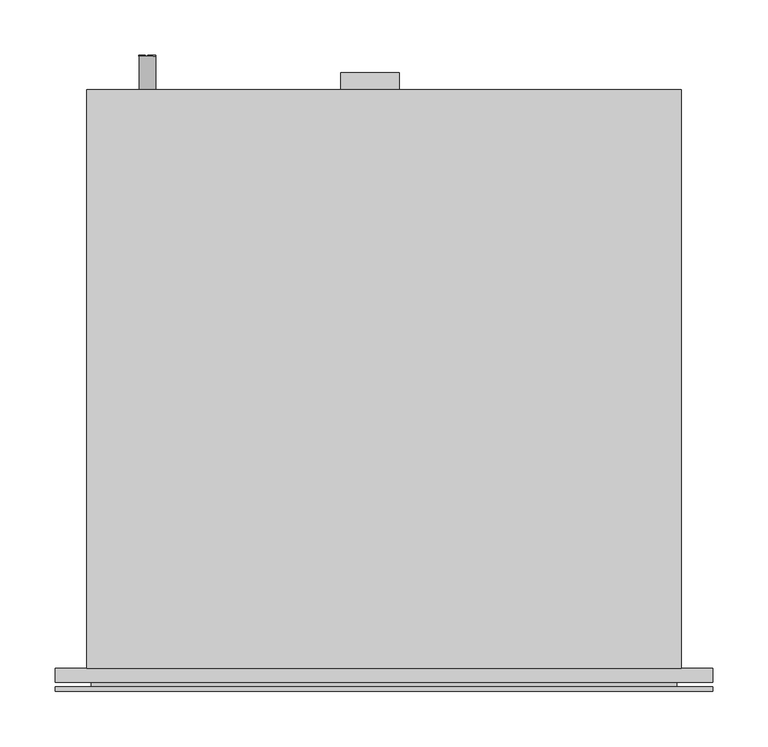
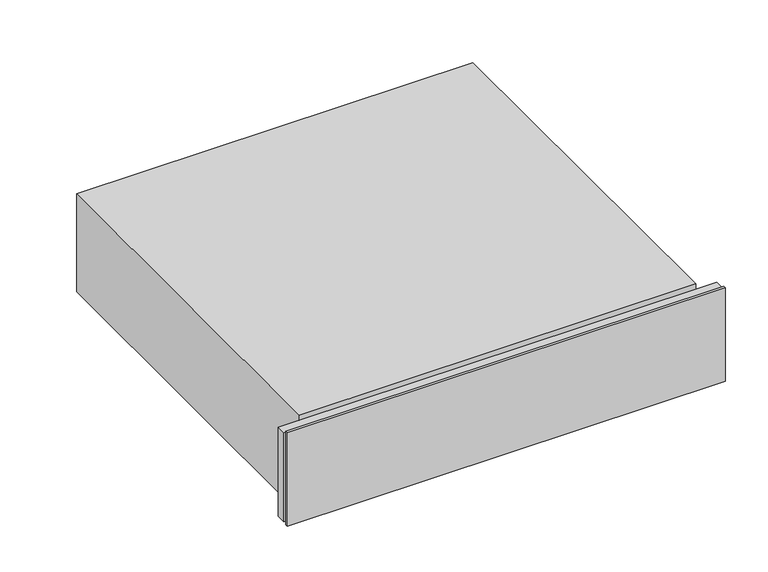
"""IFC4 building model written with IfcOpenShell, lengths in millimetres: proxy geometry, 12619920_NER_EVS7010_PEBE : 30701061_NER_12619920_EVS7010_PEBE."""

import ifcopenshell
import ifcopenshell.guid

model = None  # the IFC model being written
_history = None  # IfcOwnerHistory: only IFC2X3 demands one
_inside = {}  # id of a spatial element -> (the spatial element, [elements in it])
_under = {}  # id of a project, library or spatial element -> (it, [spatial elements below it])
_declared = {}  # id of a project -> (the project, [libraries it declares])
_typed = {}  # id of a type object -> (the type object, [elements of that type])
_made_of = {}  # id of a material, layer set ... -> (it, [elements and type objects made of it])


def new_model(schema):
    """Start an empty IFC model of exactly this schema.

    Asked for "IFC4X3", IfcOpenShell would pick the latest addendum, in which some entities
    have other attributes; the version numbers below select the first issue.
    IFC2X3 requires an IfcOwnerHistory on every rooted entity: one is made here for all.
    """
    global model, _history
    if schema == "IFC4X3":
        model = ifcopenshell.file(schema_version=(4, 3, 0, 0))
    else:
        model = ifcopenshell.file(schema=schema)
    _inside.clear()
    _under.clear()
    _declared.clear()
    _typed.clear()
    _made_of.clear()
    _history = None
    if model.schema == "IFC2X3":
        org = make("IfcOrganization", Name="unknown")
        user = make(
            "IfcPersonAndOrganization",
            ThePerson=make("IfcPerson", FamilyName="unknown"),
            TheOrganization=org,
        )
        app = make(
            "IfcApplication",
            ApplicationDeveloper=org,
            Version="unknown",
            ApplicationFullName="unknown",
            ApplicationIdentifier="unknown",
        )
        _history = make(
            "IfcOwnerHistory",
            OwningUser=user,
            OwningApplication=app,
            ChangeAction="ADDED",
            CreationDate=0,
        )
    return model


def make(cls, **values):
    """One entity of the class cls with the attributes given. An attribute that is None is left unset."""
    return model.create_entity(
        cls, **{name: value for name, value in values.items() if value is not None}
    )


def rooted(cls, **values):
    """An entity with a GlobalId (a new one), such as an element, a storey or a relation."""
    return make(cls, GlobalId=ifcopenshell.guid.new(), OwnerHistory=_history, **values)


def si_unit(unit_type, name, prefix=None):
    """IfcSIUnit, for example si_unit("LENGTHUNIT", "METRE", prefix="MILLI")."""
    return make("IfcSIUnit", UnitType=unit_type, Prefix=prefix, Name=name)


def assignment(units):
    """IfcUnitAssignment: the units of a project."""
    return None if units is None else make("IfcUnitAssignment", Units=units)


def point(xyz):
    """IfcCartesianPoint."""
    return None if xyz is None else make("IfcCartesianPoint", Coordinates=xyz)


def direction(xyz):
    """IfcDirection."""
    return None if xyz is None else make("IfcDirection", DirectionRatios=xyz)


def frame(location, z_axis=None, x_axis=None):
    """IfcAxis2Placement3D, a coordinate frame: its origin and axes. An axis left out is left unset."""
    return make(
        "IfcAxis2Placement3D",
        Location=point(location),
        Axis=direction(z_axis),
        RefDirection=direction(x_axis),
    )


def frame_2d(location, x_axis=None):
    """IfcAxis2Placement2D, a coordinate frame in the plane: its origin and x axis."""
    return make(
        "IfcAxis2Placement2D", Location=point(location), RefDirection=direction(x_axis)
    )


def origin():
    """The frame at (0, 0, 0) with its axes left unset."""
    return frame((0.0, 0.0, 0.0))


def place(relative_to, where):
    """IfcLocalPlacement: puts the frame where relative to a parent placement (None: the world)."""
    return make(
        "IfcLocalPlacement", PlacementRelTo=relative_to, RelativePlacement=where
    )


def context(
    kind, dimensions, precision=None, world=None, true_north=None, identifier=None
):
    """IfcGeometricRepresentationContext, for example the 3D "Model" context."""
    return make(
        "IfcGeometricRepresentationContext",
        ContextIdentifier=identifier,
        ContextType=kind,
        CoordinateSpaceDimension=dimensions,
        Precision=precision,
        WorldCoordinateSystem=world,
        TrueNorth=true_north,
    )


def project(units=None, contexts=None):
    """IfcProject with its units and contexts."""
    return rooted(
        "IfcProject",
        Name="project",
        RepresentationContexts=contexts,
        UnitsInContext=assignment(units),
    )


def spatial(cls, under=None, at=None, **own):
    """A site, building, storey or space (cls), placed at a placement, below another one or the project."""
    s = rooted(cls, ObjectPlacement=at, **own)
    if under is not None:
        _under.setdefault(under.id(), (under, []))[1].append(s)
    return s


def polyline(points):
    """IfcPolyline through the points."""
    return make("IfcPolyline", Points=[point(p) for p in points])


def circle_curve(where, radius):
    """IfcCircle in the frame where."""
    return make("IfcCircle", Position=where, Radius=radius)


def trimmed(basis, trim1, trim2, sense, master):
    """IfcTrimmedCurve: the piece of a basis curve between two trims."""
    return make(
        "IfcTrimmedCurve",
        BasisCurve=basis,
        Trim1=trim1,
        Trim2=trim2,
        SenseAgreement=sense,
        MasterRepresentation=master,
    )


def segment(curve, same_sense, transition):
    """IfcCompositeCurveSegment."""
    return make(
        "IfcCompositeCurveSegment",
        Transition=transition,
        SameSense=same_sense,
        ParentCurve=curve,
    )


def composite_curve(segments, self_intersect=None):
    """IfcCompositeCurve: segments joined end to end."""
    return make("IfcCompositeCurve", Segments=segments, SelfIntersect=self_intersect)


def outline(outer, holes=None, kind="AREA"):
    """IfcArbitraryClosedProfileDef: a profile drawn as a closed curve; with holes, ...WithVoids."""
    if holes is None:
        return make("IfcArbitraryClosedProfileDef", ProfileType=kind, OuterCurve=outer)
    return make(
        "IfcArbitraryProfileDefWithVoids",
        ProfileType=kind,
        OuterCurve=outer,
        InnerCurves=holes,
    )


def extrude(swept, where, along, depth):
    """IfcExtrudedAreaSolid: the profile swept, set in the frame where, extruded along a direction by depth."""
    return make(
        "IfcExtrudedAreaSolid",
        SweptArea=swept,
        Position=where,
        ExtrudedDirection=direction(along),
        Depth=depth,
    )


def faces_of(points, faces, orient=None, outer=None):
    """IfcFace entities. A face is a list of loops; a loop is a list of indices into points, from 0.

    orient and outer hold one flag for each loop. By default every Orientation is true, the
    first loop of a face is its IfcFaceOuterBound and the others are IfcFaceBound.
    """
    made = []
    for i, loops in enumerate(faces):
        bounds = []
        for j, loop in enumerate(loops):
            is_outer = j == 0 if outer is None else outer[i][j]
            bounds.append(
                make(
                    "IfcFaceOuterBound" if is_outer else "IfcFaceBound",
                    Bound=make("IfcPolyLoop", Polygon=[points[k] for k in loop]),
                    Orientation=True if orient is None else orient[i][j],
                )
            )
        made.append(make("IfcFace", Bounds=bounds))
    return made


def faceted_brep(points, faces, orient=None, outer=None, voids=None):
    """IfcFacetedBrep: a solid bounded by flat faces; with voids (closed shells), ...WithVoids."""
    shared = [point(p) for p in points]
    hull = make("IfcClosedShell", CfsFaces=faces_of(shared, faces, orient, outer))
    if voids is None:
        return make("IfcFacetedBrep", Outer=hull)
    return make(
        "IfcFacetedBrepWithVoids",
        Outer=hull,
        Voids=[
            make(cls, CfsFaces=faces_of(shared, fs, o, b)) for cls, fs, o, b in voids
        ],
    )


def shape(context_of_items, identifier, shape_type, items):
    """IfcShapeRepresentation: the items that make up one representation, for example the "Body"."""
    return make(
        "IfcShapeRepresentation",
        ContextOfItems=context_of_items,
        RepresentationIdentifier=identifier,
        RepresentationType=shape_type,
        Items=items,
    )


def source(mapping_origin, context_of_items, identifier, shape_type, items):
    """IfcRepresentationMap: a shape defined once, which mapped items show again and again."""
    return make(
        "IfcRepresentationMap",
        MappingOrigin=mapping_origin,
        MappedRepresentation=shape(context_of_items, identifier, shape_type, items),
    )


def transform(
    local_origin,
    x_axis=None,
    y_axis=None,
    z_axis=None,
    scale=None,
    scale2=None,
    scale3=None,
    uniform=True,
):
    """IfcCartesianTransformationOperator3D, or its non-uniform kind. x_axis, y_axis, z_axis: its Axis1, 2, 3."""
    if uniform:
        return make(
            "IfcCartesianTransformationOperator3D",
            Axis1=direction(x_axis),
            Axis2=direction(y_axis),
            LocalOrigin=point(local_origin),
            Scale=scale,
            Axis3=direction(z_axis),
        )
    return make(
        "IfcCartesianTransformationOperator3DnonUniform",
        Axis1=direction(x_axis),
        Axis2=direction(y_axis),
        LocalOrigin=point(local_origin),
        Scale=scale,
        Axis3=direction(z_axis),
        Scale2=scale2,
        Scale3=scale3,
    )


def mapped(mapping_source, mapping_target):
    """IfcMappedItem: shows the shape of a source again, moved by a transform."""
    return make(
        "IfcMappedItem", MappingSource=mapping_source, MappingTarget=mapping_target
    )


def made_of(thing, what):
    """Note that an element or type object is made of a material, layer set ...; save() writes the relation."""
    if what is not None:
        _made_of.setdefault(what.id(), (what, []))[1].append(thing)
    return thing


def element(
    cls,
    number,
    at=None,
    inside=None,
    cuts=None,
    type_object=None,
    material=None,
    context=None,
    identifier="Body",
    shape_type=None,
    held_by="IfcProductDefinitionShape",
    body=None,
    shapes=None,
    **own,
):
    """One element of the class cls, such as IfcWall. Its Tag is "e" and its number.

    at: its placement. inside: the storey or other place that contains it. cuts: it is an
    opening in that element (IfcRelVoidsElement). A single representation is given by context,
    identifier, shape_type and body (its items); several are given by shapes. held_by: the class
    of the entity that holds the representations. save() writes the other relations.
    """
    e = rooted(cls, Tag="e%d" % number, ObjectPlacement=at, **own)
    if body is not None:
        shapes = [shape(context, identifier, shape_type, body)]
    if shapes is not None:
        e.Representation = make(held_by, Representations=shapes)
    if inside is not None:
        _inside.setdefault(inside.id(), (inside, []))[1].append(e)
    if cuts is not None:
        rooted(
            "IfcRelVoidsElement", RelatingBuildingElement=cuts, RelatedOpeningElement=e
        )
    if type_object is not None:
        _typed.setdefault(type_object.id(), (type_object, []))[1].append(e)
    return made_of(e, material)


def aggregate(whole, parts):
    """IfcRelAggregates: a whole, such as a stair, and the parts it consists of."""
    return rooted("IfcRelAggregates", RelatingObject=whole, RelatedObjects=parts)


def save(model, path):
    """Write the relations noted so far, then the file.

    IfcRelAggregates (storeys below a building ...), IfcRelContainedInSpatialStructure (elements
    in a storey), IfcRelDefinesByType, IfcRelAssociatesMaterial and IfcRelDeclares: one each for
    every whole, place, type object, material and project.
    """
    for whole, parts in _under.values():
        aggregate(whole, parts)
    for where, things in _inside.values():
        rooted(
            "IfcRelContainedInSpatialStructure",
            RelatedElements=things,
            RelatingStructure=where,
        )
    for kind, things in _typed.values():
        rooted("IfcRelDefinesByType", RelatedObjects=things, RelatingType=kind)
    for what, things in _made_of.values():
        rooted("IfcRelAssociatesMaterial", RelatedObjects=things, RelatingMaterial=what)
    for by, libraries in _declared.values():
        rooted("IfcRelDeclares", RelatingContext=by, RelatedDefinitions=libraries)
    model.write(path)


def specialty_equipment_d28e223f(model_context):
    return source(origin(), model_context, "Body", "SolidModel", [
        extrude(outline(polyline([(-297.5, -17.0), (297.5, -17.0), (297.5, -21.0), (-297.5, -21.0), (-297.5, -17.0)])), frame((0.0, 0.0, 4.0), z_axis=(0.0, 0.0, 1.0), x_axis=(1.0, 0.0, 0.0)), (0.0, 0.0, 1.0), 134.0),
        extrude(outline(polyline([(-13.0, 10.0), (-13.0, 126.0), (19.0, 126.0), (19.0, 85.0), (4.0, 85.0), (4.0, 10.0), (-13.0, 10.0)])), frame((-261.0, 0.0, 0.0), z_axis=(1.0, 0.0, 0.0), x_axis=(0.0, 1.0, 0.0)), (0.0, 0.0, 1.0), 522.0),
        extrude(outline(polyline([(-265.0, -13.0), (265.0, -13.0), (265.0, -17.0), (-265.0, -17.0), (-265.0, -13.0)])), frame((0.0, 0.0, 6.0), z_axis=(0.0, 0.0, 1.0), x_axis=(1.0, 0.0, 0.0)), (0.0, 0.0, 1.0), 125.0),
        extrude(outline(polyline([(24.045335, -206.6203116), (24.045335, -213.8439827), (22.7898265, -213.8439827), (22.7898265, -207.876825), (19.8076572, -207.876825), (19.8076572, -213.5281281), (18.5519876, -213.5281281), (18.5519876, -207.876825), (15.2564531, -207.876825), (15.2564531, -213.8439827), (14.0, -213.8439827), (14.0, -206.6203116), (24.045335, -206.6203116)])), frame((0.0, 554.0, 0.0), z_axis=(0.0, 1.0, 0.0), x_axis=(0.0, 0.0, 1.0)), (0.0, 0.0, 1.0), 1.0),
        extrude(outline(polyline([(24.0461611, -217.1431874), (15.255243, -217.1431874), (15.255243, -222.1617362), (13.9997538, -222.1617362), (13.9997538, -217.1431874), (13.9997538, -215.8823011), (24.0461611, -215.8823011), (24.0461611, -217.1431874)])), frame((0.0, 554.0, 0.0), z_axis=(0.0, 1.0, 0.0), x_axis=(0.0, 0.0, 1.0)), (0.0, 0.0, 1.0), 1.0),
        extrude(outline(composite_curve([segment(trimmed(circle_curve(frame_2d((19.0, -214.0)), 7.5), [point((19.0, -206.5))], [point((19.0, -221.5))], False, "CARTESIAN"), True, "CONTINUOUS"), segment(trimmed(circle_curve(frame_2d((19.0, -214.0)), 7.5), [point((19.0, -221.5))], [point((19.0, -206.5))], False, "CARTESIAN"), True, "CONTINUOUS")], self_intersect=False)), frame((0.0, 524.0, 0.0), z_axis=(0.0, 1.0, 0.0), x_axis=(0.0, 0.0, 1.0)), (0.0, 0.0, 1.0), 30.0),
        faceted_brep([(269.0, 524.0, 141.0), (269.0, 524.0, 0.0), (-269.0, 524.0, 0.0), (-269.0, 524.0, 141.0), (269.0, 0.0, 141.0), (269.0, 0.0, 133.5), (269.0, 0.0, 5.5), (269.0, 0.0, 0.0), (-269.0, 0.0, 0.0), (-269.0, 0.0, 5.5), (-269.0, 0.0, 133.5), (-269.0, 0.0, 141.0), (-297.5, 0.0, 133.5), (-297.5, -13.0, 133.5), (297.5, -13.0, 133.5), (297.5, 0.0, 133.5), (-267.0, 0.0, 5.5), (-267.0, -13.0, 5.5), (-297.5, -13.0, 5.5), (-297.5, 0.0, 5.5), (267.0, 0.0, 5.5), (297.5, 0.0, 5.5), (297.5, -13.0, 5.5), (267.0, -13.0, 5.5), (-267.0, -13.0, 131.0), (267.0, -13.0, 131.0), (267.0, 522.0, 131.0), (-267.0, 522.0, 131.0), (-267.0, 522.0, 6.0), (267.0, 522.0, 6.0), (-267.0, 0.0, 6.0), (267.0, 0.0, 6.0)], [[[0, 1, 2, 3]], [[1, 0, 4, 5, 6, 7]], [[3, 2, 8, 9, 10, 11]], [[5, 10, 12, 13, 14, 15]], [[10, 5, 4, 11]], [[9, 16, 17, 18, 19]], [[20, 6, 21, 22, 23]], [[12, 10, 9, 19]], [[5, 15, 21, 6]], [[14, 13, 18, 17, 24, 25, 23, 22]], [[15, 14, 22, 21]], [[13, 12, 19, 18]], [[26, 27, 28, 29]], [[29, 28, 30, 31]], [[27, 26, 25, 24]], [[30, 16, 9, 8, 7, 6, 20, 31]], [[2, 1, 7, 8]], [[0, 3, 11, 4]], [[17, 16, 30, 28, 27, 24]], [[25, 26, 29, 31, 20, 23]]]),
        extrude(outline(polyline([(-39.0, 539.0), (14.0, 539.0), (14.0, 524.0), (-39.0, 524.0), (-39.0, 539.0)])), frame((0.0, 0.0, 4.0), z_axis=(0.0, 0.0, 1.0), x_axis=(1.0, 0.0, 0.0)), (0.0, 0.0, 1.0), 29.0),
    ])


if __name__ == "__main__":
    model = new_model("IFC4")
    model_context = context("Model", 3, world=origin())
    ifc_project = project(units=[si_unit("LENGTHUNIT", "METRE", prefix="MILLI")], contexts=[model_context])
    site = spatial("IfcSite", under=ifc_project)
    building = spatial("IfcBuilding", under=site)
    placement = place(None, origin())
    specialty_equipment_shape = specialty_equipment_d28e223f(model_context)
    element("IfcBuildingElementProxy", 1, Name="12619920_NER_EVS7010_PEBE : 30701061_NER_12619920_EVS7010_PEBE", ObjectType="12619920_NER_EVS7010_PEBE : 30701061_NER_12619920_EVS7010_PEBE", at=placement, inside=building, context=model_context, shape_type="MappedRepresentation", body=[
        mapped(specialty_equipment_shape, transform((0.0, 0.0, 0.0), x_axis=(1.0, 0.0, 0.0), y_axis=(0.0, 1.0, 0.0), z_axis=(0.0, 0.0, 1.0))),
    ])
    save(model, "model.ifc")
